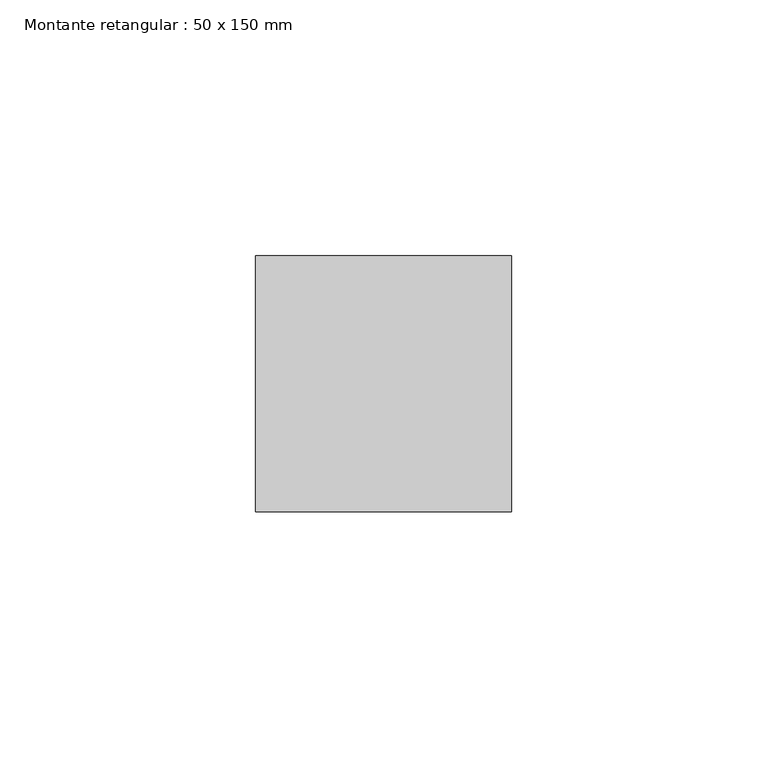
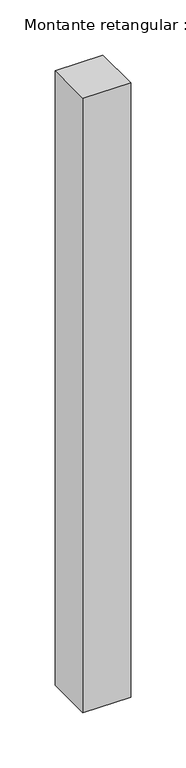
"""IFC4 building model written with IfcOpenShell, lengths in millimetres: member geometry, Montante retangular : 50 x 150 mm."""

import ifcopenshell
import ifcopenshell.guid

model = None  # the IFC model being written
_history = None  # IfcOwnerHistory: only IFC2X3 demands one
_inside = {}  # id of a spatial element -> (the spatial element, [elements in it])
_under = {}  # id of a project, library or spatial element -> (it, [spatial elements below it])
_declared = {}  # id of a project -> (the project, [libraries it declares])
_typed = {}  # id of a type object -> (the type object, [elements of that type])
_made_of = {}  # id of a material, layer set ... -> (it, [elements and type objects made of it])


def new_model(schema):
    """Start an empty IFC model of exactly this schema.

    Asked for "IFC4X3", IfcOpenShell would pick the latest addendum, in which some entities
    have other attributes; the version numbers below select the first issue.
    IFC2X3 requires an IfcOwnerHistory on every rooted entity: one is made here for all.
    """
    global model, _history
    if schema == "IFC4X3":
        model = ifcopenshell.file(schema_version=(4, 3, 0, 0))
    else:
        model = ifcopenshell.file(schema=schema)
    _inside.clear()
    _under.clear()
    _declared.clear()
    _typed.clear()
    _made_of.clear()
    _history = None
    if model.schema == "IFC2X3":
        org = make("IfcOrganization", Name="unknown")
        user = make(
            "IfcPersonAndOrganization",
            ThePerson=make("IfcPerson", FamilyName="unknown"),
            TheOrganization=org,
        )
        app = make(
            "IfcApplication",
            ApplicationDeveloper=org,
            Version="unknown",
            ApplicationFullName="unknown",
            ApplicationIdentifier="unknown",
        )
        _history = make(
            "IfcOwnerHistory",
            OwningUser=user,
            OwningApplication=app,
            ChangeAction="ADDED",
            CreationDate=0,
        )
    return model


def make(cls, **values):
    """One entity of the class cls with the attributes given. An attribute that is None is left unset."""
    return model.create_entity(
        cls, **{name: value for name, value in values.items() if value is not None}
    )


def rooted(cls, **values):
    """An entity with a GlobalId (a new one), such as an element, a storey or a relation."""
    return make(cls, GlobalId=ifcopenshell.guid.new(), OwnerHistory=_history, **values)


def si_unit(unit_type, name, prefix=None):
    """IfcSIUnit, for example si_unit("LENGTHUNIT", "METRE", prefix="MILLI")."""
    return make("IfcSIUnit", UnitType=unit_type, Prefix=prefix, Name=name)


def assignment(units):
    """IfcUnitAssignment: the units of a project."""
    return None if units is None else make("IfcUnitAssignment", Units=units)


def point(xyz):
    """IfcCartesianPoint."""
    return None if xyz is None else make("IfcCartesianPoint", Coordinates=xyz)


def direction(xyz):
    """IfcDirection."""
    return None if xyz is None else make("IfcDirection", DirectionRatios=xyz)


def frame(location, z_axis=None, x_axis=None):
    """IfcAxis2Placement3D, a coordinate frame: its origin and axes. An axis left out is left unset."""
    return make(
        "IfcAxis2Placement3D",
        Location=point(location),
        Axis=direction(z_axis),
        RefDirection=direction(x_axis),
    )


def origin():
    """The frame at (0, 0, 0) with its axes left unset."""
    return frame((0.0, 0.0, 0.0))


def place(relative_to, where):
    """IfcLocalPlacement: puts the frame where relative to a parent placement (None: the world)."""
    return make(
        "IfcLocalPlacement", PlacementRelTo=relative_to, RelativePlacement=where
    )


def context(
    kind, dimensions, precision=None, world=None, true_north=None, identifier=None
):
    """IfcGeometricRepresentationContext, for example the 3D "Model" context."""
    return make(
        "IfcGeometricRepresentationContext",
        ContextIdentifier=identifier,
        ContextType=kind,
        CoordinateSpaceDimension=dimensions,
        Precision=precision,
        WorldCoordinateSystem=world,
        TrueNorth=true_north,
    )


def project(units=None, contexts=None):
    """IfcProject with its units and contexts."""
    return rooted(
        "IfcProject",
        Name="project",
        RepresentationContexts=contexts,
        UnitsInContext=assignment(units),
    )


def spatial(cls, under=None, at=None, **own):
    """A site, building, storey or space (cls), placed at a placement, below another one or the project."""
    s = rooted(cls, ObjectPlacement=at, **own)
    if under is not None:
        _under.setdefault(under.id(), (under, []))[1].append(s)
    return s


def polyline(points):
    """IfcPolyline through the points."""
    return make("IfcPolyline", Points=[point(p) for p in points])


def outline(outer, holes=None, kind="AREA"):
    """IfcArbitraryClosedProfileDef: a profile drawn as a closed curve; with holes, ...WithVoids."""
    if holes is None:
        return make("IfcArbitraryClosedProfileDef", ProfileType=kind, OuterCurve=outer)
    return make(
        "IfcArbitraryProfileDefWithVoids",
        ProfileType=kind,
        OuterCurve=outer,
        InnerCurves=holes,
    )


def extrude(swept, where, along, depth):
    """IfcExtrudedAreaSolid: the profile swept, set in the frame where, extruded along a direction by depth."""
    return make(
        "IfcExtrudedAreaSolid",
        SweptArea=swept,
        Position=where,
        ExtrudedDirection=direction(along),
        Depth=depth,
    )


def shape(context_of_items, identifier, shape_type, items):
    """IfcShapeRepresentation: the items that make up one representation, for example the "Body"."""
    return make(
        "IfcShapeRepresentation",
        ContextOfItems=context_of_items,
        RepresentationIdentifier=identifier,
        RepresentationType=shape_type,
        Items=items,
    )


def source(mapping_origin, context_of_items, identifier, shape_type, items):
    """IfcRepresentationMap: a shape defined once, which mapped items show again and again."""
    return make(
        "IfcRepresentationMap",
        MappingOrigin=mapping_origin,
        MappedRepresentation=shape(context_of_items, identifier, shape_type, items),
    )


def transform(
    local_origin,
    x_axis=None,
    y_axis=None,
    z_axis=None,
    scale=None,
    scale2=None,
    scale3=None,
    uniform=True,
):
    """IfcCartesianTransformationOperator3D, or its non-uniform kind. x_axis, y_axis, z_axis: its Axis1, 2, 3."""
    if uniform:
        return make(
            "IfcCartesianTransformationOperator3D",
            Axis1=direction(x_axis),
            Axis2=direction(y_axis),
            LocalOrigin=point(local_origin),
            Scale=scale,
            Axis3=direction(z_axis),
        )
    return make(
        "IfcCartesianTransformationOperator3DnonUniform",
        Axis1=direction(x_axis),
        Axis2=direction(y_axis),
        LocalOrigin=point(local_origin),
        Scale=scale,
        Axis3=direction(z_axis),
        Scale2=scale2,
        Scale3=scale3,
    )


def mapped(mapping_source, mapping_target):
    """IfcMappedItem: shows the shape of a source again, moved by a transform."""
    return make(
        "IfcMappedItem", MappingSource=mapping_source, MappingTarget=mapping_target
    )


def made_of(thing, what):
    """Note that an element or type object is made of a material, layer set ...; save() writes the relation."""
    if what is not None:
        _made_of.setdefault(what.id(), (what, []))[1].append(thing)
    return thing


def element(
    cls,
    number,
    at=None,
    inside=None,
    cuts=None,
    type_object=None,
    material=None,
    context=None,
    identifier="Body",
    shape_type=None,
    held_by="IfcProductDefinitionShape",
    body=None,
    shapes=None,
    **own,
):
    """One element of the class cls, such as IfcWall. Its Tag is "e" and its number.

    at: its placement. inside: the storey or other place that contains it. cuts: it is an
    opening in that element (IfcRelVoidsElement). A single representation is given by context,
    identifier, shape_type and body (its items); several are given by shapes. held_by: the class
    of the entity that holds the representations. save() writes the other relations.
    """
    e = rooted(cls, Tag="e%d" % number, ObjectPlacement=at, **own)
    if body is not None:
        shapes = [shape(context, identifier, shape_type, body)]
    if shapes is not None:
        e.Representation = make(held_by, Representations=shapes)
    if inside is not None:
        _inside.setdefault(inside.id(), (inside, []))[1].append(e)
    if cuts is not None:
        rooted(
            "IfcRelVoidsElement", RelatingBuildingElement=cuts, RelatedOpeningElement=e
        )
    if type_object is not None:
        _typed.setdefault(type_object.id(), (type_object, []))[1].append(e)
    return made_of(e, material)


def aggregate(whole, parts):
    """IfcRelAggregates: a whole, such as a stair, and the parts it consists of."""
    return rooted("IfcRelAggregates", RelatingObject=whole, RelatedObjects=parts)


def save(model, path):
    """Write the relations noted so far, then the file.

    IfcRelAggregates (storeys below a building ...), IfcRelContainedInSpatialStructure (elements
    in a storey), IfcRelDefinesByType, IfcRelAssociatesMaterial and IfcRelDeclares: one each for
    every whole, place, type object, material and project.
    """
    for whole, parts in _under.values():
        aggregate(whole, parts)
    for where, things in _inside.values():
        rooted(
            "IfcRelContainedInSpatialStructure",
            RelatedElements=things,
            RelatingStructure=where,
        )
    for kind, things in _typed.values():
        rooted("IfcRelDefinesByType", RelatedObjects=things, RelatingType=kind)
    for what, things in _made_of.values():
        rooted("IfcRelAssociatesMaterial", RelatedObjects=things, RelatingMaterial=what)
    for by, libraries in _declared.values():
        rooted("IfcRelDeclares", RelatingContext=by, RelatedDefinitions=libraries)
    model.write(path)


def montante_retangular_50_x_150_mm_1062170a(model_context):
    return source(origin(), model_context, "Body", "SweptSolid", [
        extrude(outline(polyline([(25.0, 25.0), (25.0, -25.0), (-25.0, -25.0), (-25.0, 25.0), (25.0, 25.0)])), frame((0.0, 0.0, -680.0), z_axis=(0.0, 0.0, 1.0), x_axis=(1.0, 0.0, 0.0)), (0.0, 0.0, 1.0), 680.0),
    ])


if __name__ == "__main__":
    model = new_model("IFC4")
    model_context = context("Model", 3, world=origin())
    ifc_project = project(units=[si_unit("LENGTHUNIT", "METRE", prefix="MILLI")], contexts=[model_context])
    site = spatial("IfcSite", under=ifc_project)
    building = spatial("IfcBuilding", under=site)
    placement = place(None, origin())
    montante_retangular_50_x_150_mm_shape = montante_retangular_50_x_150_mm_1062170a(model_context)
    element("IfcMember", 1, ObjectType="Montante retangular : 50 x 150 mm", at=placement, inside=building, context=model_context, shape_type="MappedRepresentation", body=[
        mapped(montante_retangular_50_x_150_mm_shape, transform((0.0, 0.0, 0.0), x_axis=(1.0, 0.0, 0.0), y_axis=(0.0, 1.0, 0.0), z_axis=(0.0, 0.0, 1.0))),
    ])
    save(model, "model.ifc")
